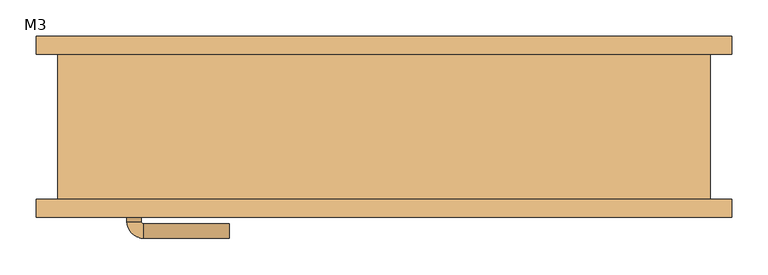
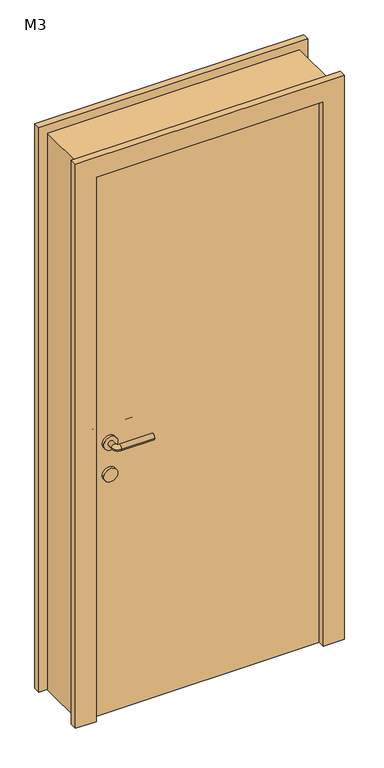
"""IFC4 building model written with IfcOpenShell, lengths in millimetres: door geometry, 单嵌板木门 1 : M3."""

from ifc_helpers import new_model, si_unit, point, frame, frame_2d, origin, origin_with_axes, place, context, project, spatial, polyline, circle_curve, ellipse_curve, trimmed, segment, composite_curve, outline, extrude, source, transform, mapped, element, save
from ifc_brep_helpers import plane_surface, cylinder_surface, revolved_surface, advanced_brep


def m3_1d156f18(model_context):
    return source(origin(), model_context, "Body", "SolidModel", [
        extrude(outline(composite_curve([segment(trimmed(circle_curve(frame_2d((900.0, -345.0)), 25.0), [point((900.0, -320.0))], [point((900.0, -370.0))], False, "CARTESIAN"), True, "CONTINUOUS"), segment(trimmed(circle_curve(frame_2d((900.0, -345.0)), 25.0), [point((900.0, -370.0))], [point((900.0, -320.0))], False, "CARTESIAN"), True, "CONTINUOUS")], self_intersect=False)), frame((0.0, -50.0, 0.0), z_axis=(0.0, 1.0, 0.0), x_axis=(0.0, 0.0, 1.0)), (0.0, 0.0, 1.0), 10.0),
        extrude(outline(composite_curve([segment(trimmed(circle_curve(frame_2d((900.0, -345.0)), 25.0), [point((900.0, -320.0))], [point((900.0, -370.0))], False, "CARTESIAN"), True, "CONTINUOUS"), segment(trimmed(circle_curve(frame_2d((900.0, -345.0)), 25.0), [point((900.0, -370.0))], [point((900.0, -320.0))], False, "CARTESIAN"), True, "CONTINUOUS")], self_intersect=False)), frame((0.0, -110.0, 0.0), z_axis=(0.0, 1.0, 0.0), x_axis=(0.0, 0.0, 1.0)), (0.0, 0.0, 1.0), 10.0),
        advanced_brep(
        [(-355.0, -40.0, 1020.0), (-335.0, -40.0, 1020.0), (-355.0, -19.386645, 1020.0), (-335.0, -19.386645, 1020.0), (-213.419036, 3.580964, 1020.0), (-213.419036, -16.419036, 1020.0), (-332.0323911, -16.419036, 1020.0), (-332.0323911, 3.580964, 1020.0)],
        [
            (0, 1, circle_curve(frame((-345.0, -40.0, 1020.0), z_axis=(0.0, -1.0, 0.0), x_axis=(1.0, 0.0, 0.0)), 10.0)),
            (1, 0, circle_curve(frame((-345.0, -40.0, 1020.0), z_axis=(0.0, -1.0, 0.0), x_axis=(1.0, 0.0, 0.0)), 10.0)),
            (0, 2),
            (2, 3, circle_curve(frame((-345.0, -19.386645, 1020.0), z_axis=(0.0, -1.0, 0.0), x_axis=(1.0, 0.0, 0.0)), 10.0)),
            (3, 1),
            (3, 2, circle_curve(frame((-345.0, -19.386645, 1020.0), z_axis=(0.0, -1.0, 0.0), x_axis=(1.0, 0.0, 0.0)), 10.0)),
            (4, 5, circle_curve(frame((-213.419036, -6.419036, 1020.0), z_axis=(1.0, 0.0, 0.0), x_axis=(0.0, -1.0, 0.0)), 10.0)),
            (5, 4, circle_curve(frame((-213.419036, -6.419036, 1020.0), z_axis=(1.0, 0.0, 0.0), x_axis=(0.0, -1.0, 0.0)), 10.0)),
            (6, 7, circle_curve(frame((-332.0323911, -6.419036, 1020.0), z_axis=(-1.0, 0.0, 0.0), x_axis=(0.0, -1.0, 0.0)), 10.0)),
            (7, 2, circle_curve(frame((-332.0323911, -19.386645, 1020.0), z_axis=(0.0, 0.0, 1.0), x_axis=(-1.0, 0.0, 0.0)), 22.9676089)),
            (3, 6, circle_curve(frame((-332.0323911, -19.386645, 1020.0), z_axis=(0.0, 0.0, -1.0), x_axis=(-1.0, 0.0, 0.0)), 2.9676089)),
            (7, 6, circle_curve(frame((-332.0323911, -6.419036, 1020.0), z_axis=(-1.0, 0.0, 0.0), x_axis=(0.0, -1.0, 0.0)), 10.0)),
            (6, 5),
            (4, 7),
        ],
        [
            plane_surface(frame((-345.0, -40.0, 900.0), z_axis=(0.0, -1.0, 0.0), x_axis=(0.0, 0.0, 1.0))),
            cylinder_surface(frame((-345.0, -40.0, 1020.0), z_axis=(0.0, -1.0, 0.0), x_axis=(1.0, 0.0, 0.0)), 10.0),
            plane_surface(frame((-213.419036, -6.419036, 900.0), z_axis=(1.0, 0.0, 0.0), x_axis=(0.0, 0.0, 1.0))),
            revolved_surface(trimmed(ellipse_curve(frame((-345.0, -19.386645, 1020.0), z_axis=(0.0, 1.0, 0.0), x_axis=(1.0, 0.0, 0.0)), 10.0, 10.0), [point((-355.0, -19.386645, 1020.0))], [point((-335.0, -19.386645, 1020.0))], True, "CARTESIAN"), (-332.0323911, -19.386645, 900.0), (0.0, 0.0, 1.0)),
            revolved_surface(trimmed(ellipse_curve(frame((-345.0, -19.386645, 1020.0), z_axis=(0.0, 1.0, 0.0), x_axis=(1.0, 0.0, 0.0)), 10.0, 10.0), [point((-335.0, -19.386645, 1020.0))], [point((-355.0, -19.386645, 1020.0))], True, "CARTESIAN"), (-332.0323911, -19.386645, 900.0), (0.0, 0.0, 1.0)),
            cylinder_surface(frame((-332.0323911, -6.419036, 1020.0), z_axis=(-1.0, 0.0, 0.0), x_axis=(0.0, -1.0, 0.0)), 10.0),
        ],
        [
            (0, [[1, 2]]),
            (1, [[3, 4, 5, -1]]),
            (1, [[-5, 6, -3, -2]]),
            (2, [[7, 8]]),
            (3, [[9, 10, -6, 11]]),
            (4, [[12, -11, -4, -10]]),
            (5, [[13, -7, 14, -9]]),
            (5, [[-14, -8, -13, -12]]),
        ],
    ),
        extrude(outline(composite_curve([segment(trimmed(circle_curve(frame_2d((1020.0, -345.0)), 25.0), [point((1020.0, -320.0))], [point((1020.0, -370.0))], False, "CARTESIAN"), True, "CONTINUOUS"), segment(trimmed(circle_curve(frame_2d((1020.0, -345.0)), 25.0), [point((1020.0, -370.0))], [point((1020.0, -320.0))], False, "CARTESIAN"), True, "CONTINUOUS")], self_intersect=False)), frame((0.0, -50.0, 0.0), z_axis=(0.0, 1.0, 0.0), x_axis=(0.0, 0.0, 1.0)), (0.0, 0.0, 1.0), 10.0),
        advanced_brep(
        [(-335.0, -110.0, 1020.0), (-355.0, -110.0, 1020.0), (-355.0, -130.6133551, 1020.0), (-335.0, -130.6133551, 1020.0), (-213.419036, -133.580964, 1020.0), (-213.419036, -153.580964, 1020.0), (-332.0323911, -153.580964, 1020.0), (-332.0323911, -133.580964, 1020.0)],
        [
            (0, 1, circle_curve(frame((-345.0, -110.0, 1020.0), z_axis=(0.0, 1.0, 0.0), x_axis=(-1.0, 0.0, 0.0)), 10.0)),
            (1, 0, circle_curve(frame((-345.0, -110.0, 1020.0), z_axis=(0.0, 1.0, 0.0), x_axis=(-1.0, 0.0, 0.0)), 10.0)),
            (1, 2),
            (2, 3, circle_curve(frame((-345.0, -130.6133551, 1020.0), z_axis=(0.0, 1.0, 0.0), x_axis=(-1.0, 0.0, 0.0)), 10.0)),
            (3, 0),
            (3, 2, circle_curve(frame((-345.0, -130.6133551, 1020.0), z_axis=(0.0, 1.0, 0.0), x_axis=(-1.0, 0.0, 0.0)), 10.0)),
            (4, 5, circle_curve(frame((-213.419036, -143.580964, 1020.0), z_axis=(1.0, 0.0, 0.0), x_axis=(0.0, -1.0, 0.0)), 10.0)),
            (5, 4, circle_curve(frame((-213.419036, -143.580964, 1020.0), z_axis=(1.0, 0.0, 0.0), x_axis=(0.0, -1.0, 0.0)), 10.0)),
            (6, 7, circle_curve(frame((-332.0323911, -143.580964, 1020.0), z_axis=(-1.0, 0.0, 0.0), x_axis=(0.0, -1.0, 0.0)), 10.0)),
            (7, 3, circle_curve(frame((-332.0323911, -130.6133551, 1020.0), z_axis=(0.0, 0.0, -1.0), x_axis=(-1.0, 0.0, 0.0)), 2.9676089)),
            (2, 6, circle_curve(frame((-332.0323911, -130.6133551, 1020.0), z_axis=(0.0, 0.0, 1.0), x_axis=(-1.0, 0.0, 0.0)), 22.9676089)),
            (7, 6, circle_curve(frame((-332.0323911, -143.580964, 1020.0), z_axis=(-1.0, 0.0, 0.0), x_axis=(0.0, -1.0, 0.0)), 10.0)),
            (6, 5),
            (4, 7),
        ],
        [
            plane_surface(frame((-345.0, -110.0, 900.0), z_axis=(0.0, 1.0, 0.0), x_axis=(0.0, 0.0, 1.0))),
            cylinder_surface(frame((-345.0, -110.0, 1020.0), z_axis=(0.0, 1.0, 0.0), x_axis=(-1.0, 0.0, 0.0)), 10.0),
            plane_surface(frame((-213.419036, -143.580964, 900.0), z_axis=(1.0, 0.0, 0.0), x_axis=(0.0, 0.0, 1.0))),
            revolved_surface(trimmed(ellipse_curve(frame((-345.0, -130.6133551, 1020.0), z_axis=(0.0, -1.0, 0.0), x_axis=(-1.0, 0.0, 0.0)), 10.0, 10.0), [point((-335.0, -130.6133551, 1020.0))], [point((-355.0, -130.6133551, 1020.0))], True, "CARTESIAN"), (-332.0323911, -130.6133551, 900.0), (0.0, 0.0, -1.0)),
            revolved_surface(trimmed(ellipse_curve(frame((-345.0, -130.6133551, 1020.0), z_axis=(0.0, -1.0, 0.0), x_axis=(-1.0, 0.0, 0.0)), 10.0, 10.0), [point((-355.0, -130.6133551, 1020.0))], [point((-335.0, -130.6133551, 1020.0))], True, "CARTESIAN"), (-332.0323911, -130.6133551, 900.0), (0.0, 0.0, -1.0)),
            cylinder_surface(frame((-332.0323911, -143.580964, 1020.0), z_axis=(-1.0, 0.0, 0.0), x_axis=(0.0, -1.0, 0.0)), 10.0),
        ],
        [
            (0, [[1, 2]]),
            (1, [[3, 4, 5, -2]]),
            (1, [[-5, 6, -3, -1]]),
            (2, [[7, 8]]),
            (3, [[9, 10, -4, 11]]),
            (4, [[12, -11, -6, -10]]),
            (5, [[13, -7, 14, -9]]),
            (5, [[-14, -8, -13, -12]]),
        ],
    ),
        extrude(outline(composite_curve([segment(trimmed(circle_curve(frame_2d((1020.0, -345.0)), 25.0), [point((1020.0, -320.0))], [point((1020.0, -370.0))], False, "CARTESIAN"), True, "CONTINUOUS"), segment(trimmed(circle_curve(frame_2d((1020.0, -345.0)), 25.0), [point((1020.0, -370.0))], [point((1020.0, -320.0))], False, "CARTESIAN"), True, "CONTINUOUS")], self_intersect=False)), frame((0.0, -110.0, 0.0), z_axis=(0.0, 1.0, 0.0), x_axis=(0.0, 0.0, 1.0)), (0.0, 0.0, 1.0), 10.0),
        extrude(outline(polyline([(0.0, 480.0), (2130.0, 480.0), (2130.0, -480.0), (0.0, -480.0), (0.0, -405.0), (2055.0, -405.0), (2055.0, 405.0), (0.0, 405.0), (0.0, 480.0)])), frame((0.0, -125.0, 0.0), z_axis=(0.0, 1.0, 0.0), x_axis=(0.0, 0.0, 1.0)), (0.0, 0.0, 1.0), 25.0),
        extrude(outline(polyline([(2130.0, 480.0), (2130.0, -480.0), (0.0, -480.0), (0.0, -405.0), (2055.0, -405.0), (2055.0, 405.0), (0.0, 405.0), (0.0, 480.0), (2130.0, 480.0)])), frame((0.0, 100.0, 0.0), z_axis=(0.0, 1.0, 0.0), x_axis=(0.0, 0.0, 1.0)), (0.0, 0.0, 1.0), 25.0),
        extrude(outline(polyline([(405.0, -50.0), (405.0, -100.0), (-405.0, -100.0), (-405.0, -50.0), (405.0, -50.0)])), origin_with_axes(), (0.0, 0.0, 1.0), 2055.0),
        extrude(outline(polyline([(2100.0, -450.0), (0.0, -450.0), (0.0, -405.0), (2055.0, -405.0), (2055.0, 405.0), (0.0, 405.0), (0.0, 450.0), (2100.0, 450.0), (2100.0, -450.0)])), frame((0.0, -100.0, 0.0), z_axis=(0.0, 1.0, 0.0), x_axis=(0.0, 0.0, 1.0)), (0.0, 0.0, 1.0), 200.0),
    ])


if __name__ == "__main__":
    model = new_model("IFC4")
    model_context = context("Model", 3, world=origin())
    ifc_project = project(units=[si_unit("LENGTHUNIT", "METRE", prefix="MILLI")], contexts=[model_context])
    site = spatial("IfcSite", under=ifc_project)
    building = spatial("IfcBuilding", under=site)
    placement = place(None, origin())
    m3_shape = m3_1d156f18(model_context)
    element("IfcDoor", 1, ObjectType="单嵌板木门 1 : M3", at=placement, inside=building, context=model_context, shape_type="MappedRepresentation", body=[
        mapped(m3_shape, transform((0.0, 0.0, 0.0), x_axis=(1.0, 0.0, 0.0), y_axis=(0.0, 1.0, 0.0), z_axis=(0.0, 0.0, 1.0))),
    ])
    save(model, "model.ifc")
